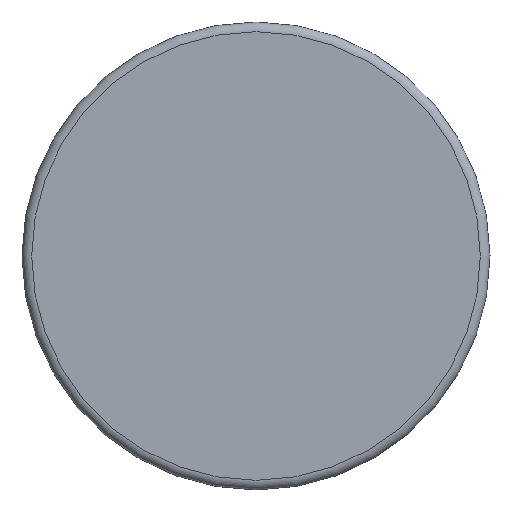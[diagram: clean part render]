
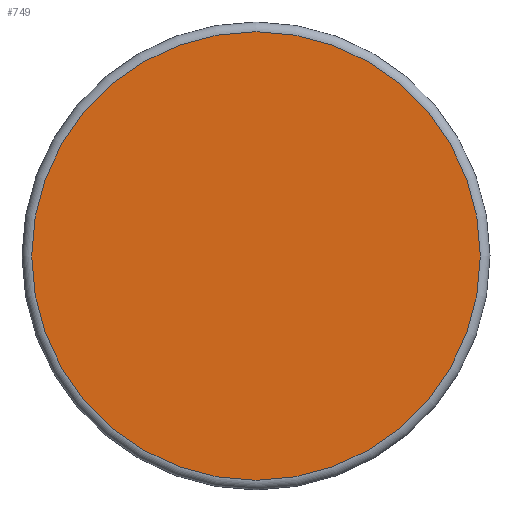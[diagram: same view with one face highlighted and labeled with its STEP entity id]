
A CAD part, top view. The second image highlights one B-rep face of the part: STEP entity #749.
In plain terms, the highlighted planar face has unit normal (0, 0, 1).
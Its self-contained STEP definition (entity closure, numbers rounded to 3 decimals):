
#718=CARTESIAN_POINT('',(230.05,0.,235.));
#719=VERTEX_POINT('',#718);
#720=CARTESIAN_POINT('',(0.,0.,235.));
#721=DIRECTION('',(0.0,0.0,-1.0));
#722=DIRECTION('',(-1.0,0.0,0.0));
#723=AXIS2_PLACEMENT_3D('',#720,#721,#722);
#724=CIRCLE('',#723,230.05);
#725=EDGE_CURVE('',#719,#719,#724,.T.);
#741=CARTESIAN_POINT('',(0.,0.,235.));
#742=DIRECTION('',(0.0,0.0,-1.0));
#743=DIRECTION('',(1.0,0.0,0.0));
#744=AXIS2_PLACEMENT_3D('',#741,#742,#743);
#745=PLANE('',#744);
#746=ORIENTED_EDGE('',*,*,#725,.F.);
#747=EDGE_LOOP('',(#746));
#748=FACE_OUTER_BOUND('',#747,.T.);
#749=ADVANCED_FACE('',(#748),#745,.F.);
